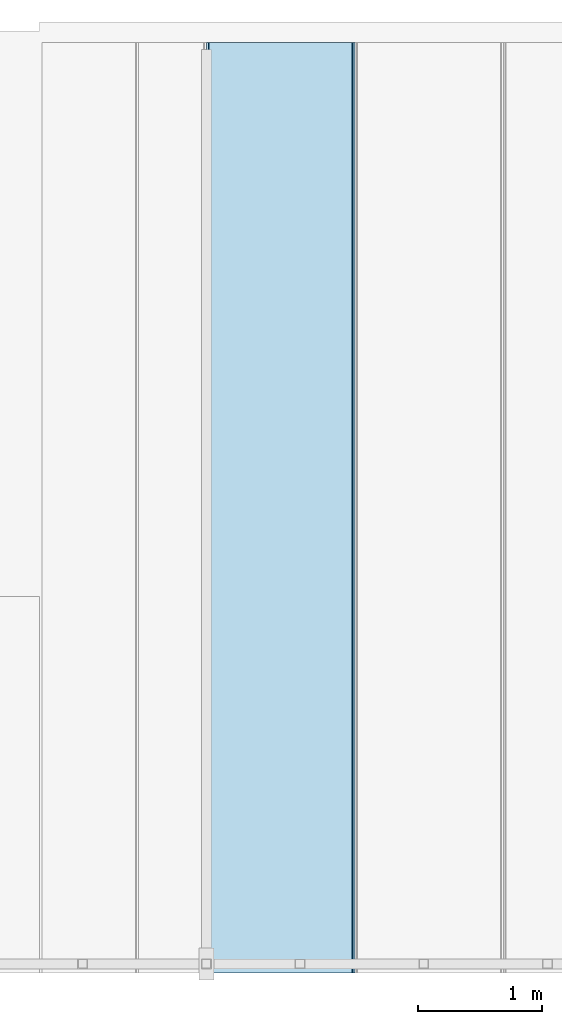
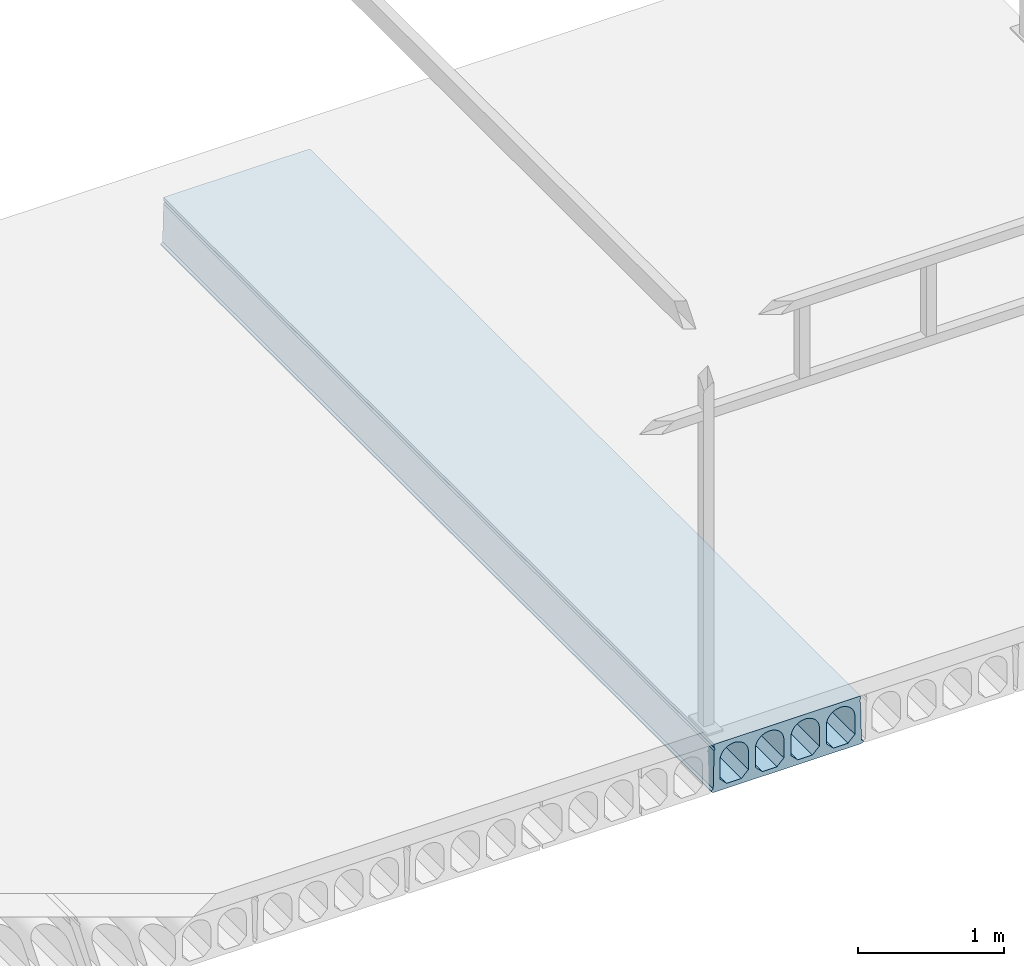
# One storey, part 16 of 20: 1 slab.
"""IFC2X3 building model written with IfcOpenShell, lengths in millimetres."""

from ifc_helpers import new_model, entity, si_unit, converted_unit, derived_unit, direction, frame, origin_with_axes, place, context, subcontext, project, spatial, faceted_brep, type_object, element, save


model = new_model("IFC2X3")

# Units and contexts
model_context = context("Model", 3, precision=0.01, world=frame((0.0, 4.29681676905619e-09, 0.0)), true_north=direction((4.01073788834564e-13, 1.0)))
plan_context = context("Plan", 3, precision=0.01, world=frame((0.0, 4.29681676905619e-09, 0.0)), true_north=direction((4.01073788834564e-13, 1.0)))
body_context = subcontext(model_context, "Body", "Model", "MODEL_VIEW")
ifc_project = project(units=[converted_unit("PLANEANGLEUNIT", "DEGREE", entity("IfcPositiveLengthMeasure", 0.0174532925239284), si_unit("PLANEANGLEUNIT", "RADIAN"), dimensions=[0, 0, 0, 0, 0, 0, 0]), si_unit("AREAUNIT", "SQUARE_METRE"), si_unit("LENGTHUNIT", "METRE", prefix="MILLI"), si_unit("MASSUNIT", "GRAM", prefix="KILO"), si_unit("POWERUNIT", "WATT"), si_unit("PRESSUREUNIT", "PASCAL", prefix="KILO"), si_unit("FORCEUNIT", "NEWTON", prefix="KILO"), si_unit("ELECTRICVOLTAGEUNIT", "VOLT"), si_unit("ELECTRICCURRENTUNIT", "AMPERE"), si_unit("THERMODYNAMICTEMPERATUREUNIT", "DEGREE_CELSIUS"), si_unit("TIMEUNIT", "SECOND"), si_unit("VOLUMEUNIT", "CUBIC_METRE"), derived_unit("LINEARVELOCITYUNIT", [(si_unit("LENGTHUNIT", "METRE"), 1), (si_unit("TIMEUNIT", "SECOND"), -1)]), derived_unit("VOLUMETRICFLOWRATEUNIT", [(si_unit("VOLUMEUNIT", "CUBIC_METRE"), 1), (si_unit("TIMEUNIT", "SECOND"), -1)]), derived_unit("THERMALTRANSMITTANCEUNIT", [(si_unit("POWERUNIT", "WATT"), 1), (si_unit("THERMODYNAMICTEMPERATUREUNIT", "KELVIN"), -1), (si_unit("AREAUNIT", "SQUARE_METRE"), -1)]), derived_unit("SOUNDPRESSUREUNIT", [(si_unit("PRESSUREUNIT", "PASCAL"), 1)])], contexts=[model_context, plan_context])

# Site, building, storey
site_placement = place(None, frame((0.0, -4.29681676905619e-09, 0.0), z_axis=(0.0, 0.0, 1.0), x_axis=(1.0, 0.0, 0.0)))
site = spatial("IfcSite", under=ifc_project, at=site_placement, Name="Gardermoen", CompositionType="ELEMENT")
building_placement = place(site_placement, frame((0.0, 4.29681676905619e-09, 0.0), z_axis=(0.0, 0.0, 1.0), x_axis=(1.0, 0.0, 0.0)))
building = spatial("IfcBuilding", under=site, at=building_placement, Name="TS", CompositionType="ELEMENT")
storey_placement = place(building_placement, origin_with_axes())
storey = spatial("IfcBuildingStorey", under=building, at=storey_placement, Name="D", CompositionType="ELEMENT", Elevation=0.0)

# Slab
slab_type = type_object("IfcSlabType", Name="HD400", PredefinedType="NOTDEFINED")
slab_placement = place(storey_placement, frame((607599.999766, 396739.995625, 203600.0), z_axis=(0.0, 0.0, 1.0), x_axis=(0.0, 1.0, 0.0)))
element("IfcSlab", 1, at=slab_placement, inside=storey, type_object=slab_type, Name="HULLDEKKE", ObjectType="HD400", PredefinedType="FLOOR", context=body_context, shape_type="Brep", body=[
    faceted_brep([(996.504375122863, 600.0, -180.0), (996.504375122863, 600.0, -190.0), (8520.0, 600.0, -190.0), (8520.0, 600.0, -180.0), (996.504375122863, 585.0, -170.0), (8520.0, 585.0, -170.0), (996.504375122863, 577.5, 145.0), (8520.0, 577.5, 145.0), (996.504375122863, 570.0, 160.0), (8520.0, 570.0, 160.0), (996.504375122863, 577.5, 175.0), (8520.0, 577.5, 175.0), (996.504375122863, 577.5, 200.0), (8520.0, 577.5, 200.0), (996.504375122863, -577.5, 200.0), (8520.0, -577.5, 200.0), (996.504375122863, -577.5, 175.0), (8520.0, -577.5, 175.0), (996.504375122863, -570.0, 160.0), (8520.0, -570.0, 160.0), (996.504375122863, -577.5, 145.0), (8520.0, -577.5, 145.0), (996.504375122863, -585.0, -170.0), (8520.0, -585.0, -170.0), (996.504375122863, -600.0, -180.0), (8520.0, -600.0, -180.0), (996.504375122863, -600.0, -190.0), (8520.0, -600.0, -190.0), (996.504375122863, -583.380004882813, -200.0), (8520.0, -583.380004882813, -200.0), (996.504375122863, 583.380004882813, -200.0), (8520.0, 583.380004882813, -200.0), (996.504375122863, -477.5, -160.0), (996.504375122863, -362.5, -160.0), (8520.0, -362.5, -160.0), (8520.0, -477.5, -160.0), (996.504375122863, -532.5, -105.0), (8520.0, -532.5, -105.0), (996.504375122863, -532.5, 47.5), (8520.0, -532.5, 47.5), (996.504375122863, -532.115755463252, 56.7901763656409), (8520.0, -532.115755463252, 56.7901763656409), (996.504375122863, -530.965646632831, 66.0168914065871), (8520.0, -530.965646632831, 66.0168914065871), (996.504375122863, -529.057529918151, 75.1171173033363), (8520.0, -529.057529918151, 75.1171173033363), (996.504375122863, -526.404439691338, 84.028690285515), (8520.0, -526.404439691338, 84.028690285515), (996.504375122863, -523.024499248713, 92.6907352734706), (8520.0, -523.024499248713, 92.6907352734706), (996.504375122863, -518.940797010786, 101.044081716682), (8520.0, -518.940797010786, 101.044081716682), (996.504375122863, -514.181228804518, 109.031667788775), (8520.0, -514.181228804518, 109.031667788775), (996.504375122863, -508.778307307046, 116.598930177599), (8520.0, -508.778307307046, 116.598930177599), (996.504375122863, -502.768939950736, 123.694176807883), (8520.0, -502.768939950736, 123.694176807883), (996.504375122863, -496.194176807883, 130.268939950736), (8520.0, -496.194176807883, 130.268939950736), (996.504375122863, -489.098930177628, 136.278307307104), (8520.0, -489.098930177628, 136.278307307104), (996.504375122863, -481.531667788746, 141.681228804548), (8520.0, -481.531667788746, 141.681228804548), (996.504375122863, -473.544081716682, 146.440797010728), (8520.0, -473.544081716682, 146.440797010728), (996.504375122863, -465.190735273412, 150.524499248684), (8520.0, -465.190735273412, 150.524499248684), (996.504375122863, -456.528690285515, 153.904439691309), (8520.0, -456.528690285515, 153.904439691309), (996.504375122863, -447.617117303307, 156.55752991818), (8520.0, -447.617117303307, 156.55752991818), (996.504375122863, -438.516891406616, 158.465646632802), (8520.0, -438.516891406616, 158.465646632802), (996.504375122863, -429.290176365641, 159.615755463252), (8520.0, -429.290176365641, 159.615755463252), (996.504375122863, -420.0, 160.0), (8520.0, -420.0, 160.0), (996.504375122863, -410.709823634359, 159.615755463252), (8520.0, -410.709823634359, 159.615755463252), (996.504375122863, -401.483108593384, 158.465646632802), (8520.0, -401.483108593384, 158.465646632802), (996.504375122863, -392.382882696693, 156.55752991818), (8520.0, -392.382882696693, 156.55752991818), (996.504375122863, -383.471309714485, 153.904439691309), (8520.0, -383.471309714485, 153.904439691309), (996.504375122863, -374.809264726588, 150.524499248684), (8520.0, -374.809264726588, 150.524499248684), (996.504375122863, -366.455918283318, 146.440797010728), (8520.0, -366.455918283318, 146.440797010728), (996.504375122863, -358.468332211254, 141.681228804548), (8520.0, -358.468332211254, 141.681228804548), (996.504375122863, -350.901069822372, 136.278307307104), (8520.0, -350.901069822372, 136.278307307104), (996.504375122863, -343.805823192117, 130.268939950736), (8520.0, -343.805823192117, 130.268939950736), (996.504375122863, -337.231060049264, 123.694176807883), (8520.0, -337.231060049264, 123.694176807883), (996.504375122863, -331.221692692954, 116.598930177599), (8520.0, -331.221692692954, 116.598930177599), (996.504375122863, -325.818771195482, 109.031667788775), (8520.0, -325.818771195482, 109.031667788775), (996.504375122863, -321.059202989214, 101.044081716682), (8520.0, -321.059202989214, 101.044081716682), (996.504375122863, -316.975500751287, 92.6907352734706), (8520.0, -316.975500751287, 92.6907352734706), (996.504375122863, -313.595560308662, 84.028690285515), (8520.0, -313.595560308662, 84.028690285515), (996.504375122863, -310.942470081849, 75.1171173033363), (8520.0, -310.942470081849, 75.1171173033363), (996.504375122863, -309.034353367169, 66.0168914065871), (8520.0, -309.034353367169, 66.0168914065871), (996.504375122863, -307.884244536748, 56.7901763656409), (8520.0, -307.884244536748, 56.7901763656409), (996.504375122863, -307.5, 47.5), (8520.0, -307.5, 47.5), (996.504375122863, -307.5, -105.0), (8520.0, -307.5, -105.0), (996.504375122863, -197.5, -160.0), (996.504375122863, -82.5, -160.0), (8520.0, -82.5, -160.0), (8520.0, -197.5, -160.0), (996.504375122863, -252.5, -105.0), (8520.0, -252.5, -105.0), (996.504375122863, -252.5, 47.5), (8520.0, -252.5, 47.5), (996.504375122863, -252.115755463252, 56.7901763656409), (8520.0, -252.115755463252, 56.7901763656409), (996.504375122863, -250.965646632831, 66.0168914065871), (8520.0, -250.965646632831, 66.0168914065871), (996.504375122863, -249.057529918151, 75.1171173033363), (8520.0, -249.057529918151, 75.1171173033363), (996.504375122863, -246.404439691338, 84.028690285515), (8520.0, -246.404439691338, 84.028690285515), (996.504375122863, -243.024499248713, 92.6907352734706), (8520.0, -243.024499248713, 92.6907352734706), (996.504375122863, -238.940797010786, 101.044081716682), (8520.0, -238.940797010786, 101.044081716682), (996.504375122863, -234.181228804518, 109.031667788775), (8520.0, -234.181228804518, 109.031667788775), (996.504375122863, -228.778307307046, 116.598930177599), (8520.0, -228.778307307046, 116.598930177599), (996.504375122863, -222.768939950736, 123.694176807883), (8520.0, -222.768939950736, 123.694176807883), (996.504375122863, -216.194176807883, 130.268939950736), (8520.0, -216.194176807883, 130.268939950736), (996.504375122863, -209.098930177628, 136.278307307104), (8520.0, -209.098930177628, 136.278307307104), (996.504375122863, -201.531667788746, 141.681228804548), (8520.0, -201.531667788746, 141.681228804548), (996.504375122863, -193.544081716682, 146.440797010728), (8520.0, -193.544081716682, 146.440797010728), (996.504375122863, -185.190735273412, 150.524499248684), (8520.0, -185.190735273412, 150.524499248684), (996.504375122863, -176.528690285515, 153.904439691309), (8520.0, -176.528690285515, 153.904439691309), (996.504375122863, -167.617117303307, 156.55752991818), (8520.0, -167.617117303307, 156.55752991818), (996.504375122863, -158.516891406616, 158.465646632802), (8520.0, -158.516891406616, 158.465646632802), (996.504375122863, -149.290176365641, 159.615755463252), (8520.0, -149.290176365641, 159.615755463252), (996.504375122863, -140.0, 160.0), (8520.0, -140.0, 160.0), (996.504375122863, -130.709823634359, 159.615755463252), (8520.0, -130.709823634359, 159.615755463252), (996.504375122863, -121.483108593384, 158.465646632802), (8520.0, -121.483108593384, 158.465646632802), (996.504375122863, -112.382882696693, 156.55752991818), (8520.0, -112.382882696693, 156.55752991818), (996.504375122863, -103.471309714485, 153.904439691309), (8520.0, -103.471309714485, 153.904439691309), (996.504375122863, -94.8092647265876, 150.524499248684), (8520.0, -94.8092647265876, 150.524499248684), (996.504375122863, -86.4559182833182, 146.440797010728), (8520.0, -86.4559182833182, 146.440797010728), (996.504375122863, -78.4683322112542, 141.681228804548), (8520.0, -78.4683322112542, 141.681228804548), (996.504375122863, -70.9010698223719, 136.278307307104), (8520.0, -70.9010698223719, 136.278307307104), (996.504375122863, -63.8058231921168, 130.268939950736), (8520.0, -63.8058231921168, 130.268939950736), (996.504375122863, -57.2310600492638, 123.694176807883), (8520.0, -57.2310600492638, 123.694176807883), (996.504375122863, -51.2216926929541, 116.598930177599), (8520.0, -51.2216926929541, 116.598930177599), (996.504375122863, -45.8187711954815, 109.031667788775), (8520.0, -45.8187711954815, 109.031667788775), (996.504375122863, -41.0592029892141, 101.044081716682), (8520.0, -41.0592029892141, 101.044081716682), (996.504375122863, -36.9755007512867, 92.6907352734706), (8520.0, -36.9755007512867, 92.6907352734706), (996.504375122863, -33.5955603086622, 84.028690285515), (8520.0, -33.5955603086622, 84.028690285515), (996.504375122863, -30.942470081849, 75.1171173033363), (8520.0, -30.942470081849, 75.1171173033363), (996.504375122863, -29.0343533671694, 66.0168914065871), (8520.0, -29.0343533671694, 66.0168914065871), (996.504375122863, -27.8842445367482, 56.7901763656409), (8520.0, -27.8842445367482, 56.7901763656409), (996.504375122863, -27.5, 47.5), (8520.0, -27.5, 47.5), (996.504375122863, -27.5, -105.0), (8520.0, -27.5, -105.0), (996.504375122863, 82.5, -160.0), (996.504375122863, 197.5, -160.0), (8520.0, 197.5, -160.0), (8520.0, 82.5, -160.0), (996.504375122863, 27.5, -105.0), (8520.0, 27.5, -105.0), (996.504375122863, 27.5, 47.5), (8520.0, 27.5, 47.5), (996.504375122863, 27.8842445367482, 56.7901763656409), (8520.0, 27.8842445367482, 56.7901763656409), (996.504375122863, 29.0343533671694, 66.0168914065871), (8520.0, 29.0343533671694, 66.0168914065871), (996.504375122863, 30.942470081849, 75.1171173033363), (8520.0, 30.942470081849, 75.1171173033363), (996.504375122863, 33.5955603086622, 84.028690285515), (8520.0, 33.5955603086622, 84.028690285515), (996.504375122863, 36.9755007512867, 92.6907352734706), (8520.0, 36.9755007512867, 92.6907352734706), (996.504375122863, 41.0592029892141, 101.044081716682), (8520.0, 41.0592029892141, 101.044081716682), (996.504375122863, 45.8187711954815, 109.031667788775), (8520.0, 45.8187711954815, 109.031667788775), (996.504375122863, 51.2216926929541, 116.598930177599), (8520.0, 51.2216926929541, 116.598930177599), (996.504375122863, 57.2310600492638, 123.694176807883), (8520.0, 57.2310600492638, 123.694176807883), (996.504375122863, 63.8058231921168, 130.268939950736), (8520.0, 63.8058231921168, 130.268939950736), (996.504375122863, 70.9010698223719, 136.278307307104), (8520.0, 70.9010698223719, 136.278307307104), (996.504375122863, 78.4683322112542, 141.681228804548), (8520.0, 78.4683322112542, 141.681228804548), (996.504375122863, 86.4559182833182, 146.440797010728), (8520.0, 86.4559182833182, 146.440797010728), (996.504375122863, 94.8092647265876, 150.524499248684), (8520.0, 94.8092647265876, 150.524499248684), (996.504375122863, 103.471309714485, 153.904439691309), (8520.0, 103.471309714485, 153.904439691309), (996.504375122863, 112.382882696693, 156.55752991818), (8520.0, 112.382882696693, 156.55752991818), (996.504375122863, 121.483108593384, 158.465646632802), (8520.0, 121.483108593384, 158.465646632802), (996.504375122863, 130.709823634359, 159.615755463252), (8520.0, 130.709823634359, 159.615755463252), (996.504375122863, 140.0, 160.0), (8520.0, 140.0, 160.0), (996.504375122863, 149.290176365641, 159.615755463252), (8520.0, 149.290176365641, 159.615755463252), (996.504375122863, 158.516891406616, 158.465646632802), (8520.0, 158.516891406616, 158.465646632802), (996.504375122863, 167.617117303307, 156.55752991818), (8520.0, 167.617117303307, 156.55752991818), (996.504375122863, 176.528690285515, 153.904439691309), (8520.0, 176.528690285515, 153.904439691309), (996.504375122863, 185.190735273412, 150.524499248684), (8520.0, 185.190735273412, 150.524499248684), (996.504375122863, 193.544081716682, 146.440797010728), (8520.0, 193.544081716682, 146.440797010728), (996.504375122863, 201.531667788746, 141.681228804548), (8520.0, 201.531667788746, 141.681228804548), (996.504375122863, 209.098930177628, 136.278307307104), (8520.0, 209.098930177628, 136.278307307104), (996.504375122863, 216.194176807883, 130.268939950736), (8520.0, 216.194176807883, 130.268939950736), (996.504375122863, 222.768939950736, 123.694176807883), (8520.0, 222.768939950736, 123.694176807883), (996.504375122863, 228.778307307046, 116.598930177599), (8520.0, 228.778307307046, 116.598930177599), (996.504375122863, 234.181228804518, 109.031667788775), (8520.0, 234.181228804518, 109.031667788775), (996.504375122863, 238.940797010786, 101.044081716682), (8520.0, 238.940797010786, 101.044081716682), (996.504375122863, 243.024499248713, 92.6907352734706), (8520.0, 243.024499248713, 92.6907352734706), (996.504375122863, 246.404439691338, 84.028690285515), (8520.0, 246.404439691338, 84.028690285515), (996.504375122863, 249.057529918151, 75.1171173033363), (8520.0, 249.057529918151, 75.1171173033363), (996.504375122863, 250.965646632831, 66.0168914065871), (8520.0, 250.965646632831, 66.0168914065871), (996.504375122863, 252.115755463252, 56.7901763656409), (8520.0, 252.115755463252, 56.7901763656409), (996.504375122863, 252.5, 47.5), (8520.0, 252.5, 47.5), (996.504375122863, 252.5, -105.0), (8520.0, 252.5, -105.0), (996.504375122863, 362.5, -160.0), (996.504375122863, 477.5, -160.0), (8520.0, 477.5, -160.0), (8520.0, 362.5, -160.0), (996.504375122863, 307.5, -105.0), (8520.0, 307.5, -105.0), (996.504375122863, 307.5, 47.5), (8520.0, 307.5, 47.5), (996.504375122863, 307.884244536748, 56.7901763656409), (8520.0, 307.884244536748, 56.7901763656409), (996.504375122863, 309.034353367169, 66.0168914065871), (8520.0, 309.034353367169, 66.0168914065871), (996.504375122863, 310.942470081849, 75.1171173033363), (8520.0, 310.942470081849, 75.1171173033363), (996.504375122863, 313.595560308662, 84.028690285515), (8520.0, 313.595560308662, 84.028690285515), (996.504375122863, 316.975500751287, 92.6907352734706), (8520.0, 316.975500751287, 92.6907352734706), (996.504375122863, 321.059202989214, 101.044081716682), (8520.0, 321.059202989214, 101.044081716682), (996.504375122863, 325.818771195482, 109.031667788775), (8520.0, 325.818771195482, 109.031667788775), (996.504375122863, 331.221692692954, 116.598930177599), (8520.0, 331.221692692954, 116.598930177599), (996.504375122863, 337.231060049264, 123.694176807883), (8520.0, 337.231060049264, 123.694176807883), (996.504375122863, 343.805823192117, 130.268939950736), (8520.0, 343.805823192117, 130.268939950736), (996.504375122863, 350.901069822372, 136.278307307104), (8520.0, 350.901069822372, 136.278307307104), (996.504375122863, 358.468332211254, 141.681228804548), (8520.0, 358.468332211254, 141.681228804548), (996.504375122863, 366.455918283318, 146.440797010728), (8520.0, 366.455918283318, 146.440797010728), (996.504375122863, 374.809264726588, 150.524499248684), (8520.0, 374.809264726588, 150.524499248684), (996.504375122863, 383.471309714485, 153.904439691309), (8520.0, 383.471309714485, 153.904439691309), (996.504375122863, 392.382882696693, 156.55752991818), (8520.0, 392.382882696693, 156.55752991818), (996.504375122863, 401.483108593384, 158.465646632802), (8520.0, 401.483108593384, 158.465646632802), (996.504375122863, 410.709823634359, 159.615755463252), (8520.0, 410.709823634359, 159.615755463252), (996.504375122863, 420.0, 160.0), (8520.0, 420.0, 160.0), (996.504375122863, 429.290176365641, 159.615755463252), (8520.0, 429.290176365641, 159.615755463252), (996.504375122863, 438.516891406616, 158.465646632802), (8520.0, 438.516891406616, 158.465646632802), (996.504375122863, 447.617117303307, 156.55752991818), (8520.0, 447.617117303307, 156.55752991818), (996.504375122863, 456.528690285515, 153.904439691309), (8520.0, 456.528690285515, 153.904439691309), (996.504375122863, 465.190735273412, 150.524499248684), (8520.0, 465.190735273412, 150.524499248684), (996.504375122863, 473.544081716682, 146.440797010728), (8520.0, 473.544081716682, 146.440797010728), (996.504375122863, 481.531667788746, 141.681228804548), (8520.0, 481.531667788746, 141.681228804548), (996.504375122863, 489.098930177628, 136.278307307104), (8520.0, 489.098930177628, 136.278307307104), (996.504375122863, 496.194176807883, 130.268939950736), (8520.0, 496.194176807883, 130.268939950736), (996.504375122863, 502.768939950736, 123.694176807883), (8520.0, 502.768939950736, 123.694176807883), (996.504375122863, 508.778307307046, 116.598930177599), (8520.0, 508.778307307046, 116.598930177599), (996.504375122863, 514.181228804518, 109.031667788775), (8520.0, 514.181228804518, 109.031667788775), (996.504375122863, 518.940797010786, 101.044081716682), (8520.0, 518.940797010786, 101.044081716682), (996.504375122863, 523.024499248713, 92.6907352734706), (8520.0, 523.024499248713, 92.6907352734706), (996.504375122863, 526.404439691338, 84.028690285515), (8520.0, 526.404439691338, 84.028690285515), (996.504375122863, 529.057529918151, 75.1171173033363), (8520.0, 529.057529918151, 75.1171173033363), (996.504375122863, 530.965646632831, 66.0168914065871), (8520.0, 530.965646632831, 66.0168914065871), (996.504375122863, 532.115755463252, 56.7901763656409), (8520.0, 532.115755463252, 56.7901763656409), (996.504375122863, 532.5, 47.5), (8520.0, 532.5, 47.5), (996.504375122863, 532.5, -105.0), (8520.0, 532.5, -105.0)], [[[0, 1, 2, 3]], [[4, 0, 3, 5]], [[6, 4, 5, 7]], [[8, 6, 7, 9]], [[10, 8, 9, 11]], [[12, 10, 11, 13]], [[14, 12, 13, 15]], [[16, 14, 15, 17]], [[18, 16, 17, 19]], [[20, 18, 19, 21]], [[22, 20, 21, 23]], [[24, 22, 23, 25]], [[26, 24, 25, 27]], [[28, 26, 27, 29]], [[30, 28, 29, 31]], [[1, 30, 31, 2]], [[32, 33, 34, 35]], [[36, 32, 35, 37]], [[38, 36, 37, 39]], [[40, 38, 39, 41]], [[42, 40, 41, 43]], [[44, 42, 43, 45]], [[46, 44, 45, 47]], [[48, 46, 47, 49]], [[50, 48, 49, 51]], [[52, 50, 51, 53]], [[54, 52, 53, 55]], [[56, 54, 55, 57]], [[58, 56, 57, 59]], [[60, 58, 59, 61]], [[62, 60, 61, 63]], [[64, 62, 63, 65]], [[66, 64, 65, 67]], [[68, 66, 67, 69]], [[70, 68, 69, 71]], [[72, 70, 71, 73]], [[74, 72, 73, 75]], [[76, 74, 75, 77]], [[78, 76, 77, 79]], [[80, 78, 79, 81]], [[82, 80, 81, 83]], [[84, 82, 83, 85]], [[86, 84, 85, 87]], [[88, 86, 87, 89]], [[90, 88, 89, 91]], [[92, 90, 91, 93]], [[94, 92, 93, 95]], [[96, 94, 95, 97]], [[98, 96, 97, 99]], [[100, 98, 99, 101]], [[102, 100, 101, 103]], [[104, 102, 103, 105]], [[106, 104, 105, 107]], [[108, 106, 107, 109]], [[110, 108, 109, 111]], [[112, 110, 111, 113]], [[114, 112, 113, 115]], [[116, 114, 115, 117]], [[33, 116, 117, 34]], [[118, 119, 120, 121]], [[122, 118, 121, 123]], [[124, 122, 123, 125]], [[126, 124, 125, 127]], [[128, 126, 127, 129]], [[130, 128, 129, 131]], [[132, 130, 131, 133]], [[134, 132, 133, 135]], [[136, 134, 135, 137]], [[138, 136, 137, 139]], [[140, 138, 139, 141]], [[142, 140, 141, 143]], [[144, 142, 143, 145]], [[146, 144, 145, 147]], [[148, 146, 147, 149]], [[150, 148, 149, 151]], [[152, 150, 151, 153]], [[154, 152, 153, 155]], [[156, 154, 155, 157]], [[158, 156, 157, 159]], [[160, 158, 159, 161]], [[162, 160, 161, 163]], [[164, 162, 163, 165]], [[166, 164, 165, 167]], [[168, 166, 167, 169]], [[170, 168, 169, 171]], [[172, 170, 171, 173]], [[174, 172, 173, 175]], [[176, 174, 175, 177]], [[178, 176, 177, 179]], [[180, 178, 179, 181]], [[182, 180, 181, 183]], [[184, 182, 183, 185]], [[186, 184, 185, 187]], [[188, 186, 187, 189]], [[190, 188, 189, 191]], [[192, 190, 191, 193]], [[194, 192, 193, 195]], [[196, 194, 195, 197]], [[198, 196, 197, 199]], [[200, 198, 199, 201]], [[202, 200, 201, 203]], [[119, 202, 203, 120]], [[204, 205, 206, 207]], [[208, 204, 207, 209]], [[210, 208, 209, 211]], [[212, 210, 211, 213]], [[214, 212, 213, 215]], [[216, 214, 215, 217]], [[218, 216, 217, 219]], [[220, 218, 219, 221]], [[222, 220, 221, 223]], [[224, 222, 223, 225]], [[226, 224, 225, 227]], [[228, 226, 227, 229]], [[230, 228, 229, 231]], [[232, 230, 231, 233]], [[234, 232, 233, 235]], [[236, 234, 235, 237]], [[238, 236, 237, 239]], [[240, 238, 239, 241]], [[242, 240, 241, 243]], [[244, 242, 243, 245]], [[246, 244, 245, 247]], [[248, 246, 247, 249]], [[250, 248, 249, 251]], [[252, 250, 251, 253]], [[254, 252, 253, 255]], [[256, 254, 255, 257]], [[258, 256, 257, 259]], [[260, 258, 259, 261]], [[262, 260, 261, 263]], [[264, 262, 263, 265]], [[266, 264, 265, 267]], [[268, 266, 267, 269]], [[270, 268, 269, 271]], [[272, 270, 271, 273]], [[274, 272, 273, 275]], [[276, 274, 275, 277]], [[278, 276, 277, 279]], [[280, 278, 279, 281]], [[282, 280, 281, 283]], [[284, 282, 283, 285]], [[286, 284, 285, 287]], [[288, 286, 287, 289]], [[205, 288, 289, 206]], [[290, 291, 292, 293]], [[294, 290, 293, 295]], [[296, 294, 295, 297]], [[298, 296, 297, 299]], [[300, 298, 299, 301]], [[302, 300, 301, 303]], [[304, 302, 303, 305]], [[306, 304, 305, 307]], [[308, 306, 307, 309]], [[310, 308, 309, 311]], [[312, 310, 311, 313]], [[314, 312, 313, 315]], [[316, 314, 315, 317]], [[318, 316, 317, 319]], [[320, 318, 319, 321]], [[322, 320, 321, 323]], [[324, 322, 323, 325]], [[326, 324, 325, 327]], [[328, 326, 327, 329]], [[330, 328, 329, 331]], [[332, 330, 331, 333]], [[334, 332, 333, 335]], [[336, 334, 335, 337]], [[338, 336, 337, 339]], [[340, 338, 339, 341]], [[342, 340, 341, 343]], [[344, 342, 343, 345]], [[346, 344, 345, 347]], [[348, 346, 347, 349]], [[350, 348, 349, 351]], [[352, 350, 351, 353]], [[354, 352, 353, 355]], [[356, 354, 355, 357]], [[358, 356, 357, 359]], [[360, 358, 359, 361]], [[362, 360, 361, 363]], [[364, 362, 363, 365]], [[366, 364, 365, 367]], [[368, 366, 367, 369]], [[370, 368, 369, 371]], [[372, 370, 371, 373]], [[374, 372, 373, 375]], [[291, 374, 375, 292]], [[3, 2, 31, 29, 27, 25, 23, 21, 19, 17, 15, 13, 11, 9, 7, 5], [293, 292, 375, 373, 371, 369, 367, 365, 363, 361, 359, 357, 355, 353, 351, 349, 347, 345, 343, 341, 339, 337, 335, 333, 331, 329, 327, 325, 323, 321, 319, 317, 315, 313, 311, 309, 307, 305, 303, 301, 299, 297, 295], [207, 206, 289, 287, 285, 283, 281, 279, 277, 275, 273, 271, 269, 267, 265, 263, 261, 259, 257, 255, 253, 251, 249, 247, 245, 243, 241, 239, 237, 235, 233, 231, 229, 227, 225, 223, 221, 219, 217, 215, 213, 211, 209], [121, 120, 203, 201, 199, 197, 195, 193, 191, 189, 187, 185, 183, 181, 179, 177, 175, 173, 171, 169, 167, 165, 163, 161, 159, 157, 155, 153, 151, 149, 147, 145, 143, 141, 139, 137, 135, 133, 131, 129, 127, 125, 123], [35, 34, 117, 115, 113, 111, 109, 107, 105, 103, 101, 99, 97, 95, 93, 91, 89, 87, 85, 83, 81, 79, 77, 75, 73, 71, 69, 67, 65, 63, 61, 59, 57, 55, 53, 51, 49, 47, 45, 43, 41, 39, 37]], [[4, 6, 8, 10, 12, 14, 16, 18, 20, 22, 24, 26, 28, 30, 1, 0], [36, 38, 40, 42, 44, 46, 48, 50, 52, 54, 56, 58, 60, 62, 64, 66, 68, 70, 72, 74, 76, 78, 80, 82, 84, 86, 88, 90, 92, 94, 96, 98, 100, 102, 104, 106, 108, 110, 112, 114, 116, 33, 32], [122, 124, 126, 128, 130, 132, 134, 136, 138, 140, 142, 144, 146, 148, 150, 152, 154, 156, 158, 160, 162, 164, 166, 168, 170, 172, 174, 176, 178, 180, 182, 184, 186, 188, 190, 192, 194, 196, 198, 200, 202, 119, 118], [208, 210, 212, 214, 216, 218, 220, 222, 224, 226, 228, 230, 232, 234, 236, 238, 240, 242, 244, 246, 248, 250, 252, 254, 256, 258, 260, 262, 264, 266, 268, 270, 272, 274, 276, 278, 280, 282, 284, 286, 288, 205, 204], [294, 296, 298, 300, 302, 304, 306, 308, 310, 312, 314, 316, 318, 320, 322, 324, 326, 328, 330, 332, 334, 336, 338, 340, 342, 344, 346, 348, 350, 352, 354, 356, 358, 360, 362, 364, 366, 368, 370, 372, 374, 291, 290]]], orient=[[False], [False], [False], [False], [False], [False], [False], [False], [False], [False], [False], [False], [False], [False], [False], [False], [False], [False], [False], [False], [False], [False], [False], [False], [False], [False], [False], [False], [False], [False], [False], [False], [False], [False], [False], [False], [False], [False], [False], [False], [False], [False], [False], [False], [False], [False], [False], [False], [False], [False], [False], [False], [False], [False], [False], [False], [False], [False], [False], [False], [False], [False], [False], [False], [False], [False], [False], [False], [False], [False], [False], [False], [False], [False], [False], [False], [False], [False], [False], [False], [False], [False], [False], [False], [False], [False], [False], [False], [False], [False], [False], [False], [False], [False], [False], [False], [False], [False], [False], [False], [False], [False], [False], [False], [False], [False], [False], [False], [False], [False], [False], [False], [False], [False], [False], [False], [False], [False], [False], [False], [False], [False], [False], [False], [False], [False], [False], [False], [False], [False], [False], [False], [False], [False], [False], [False], [False], [False], [False], [False], [False], [False], [False], [False], [False], [False], [False], [False], [False], [False], [False], [False], [False], [False], [False], [False], [False], [False], [False], [False], [False], [False], [False], [False], [False], [False], [False], [False], [False], [False], [False], [False], [False], [False], [False], [False], [False], [False], [False], [False], [False], [False], [False], [False], [False], [False], [False], [False], [False, False, False, False, False], [False, False, False, False, False]]),
])

save(model, "model.ifc")
